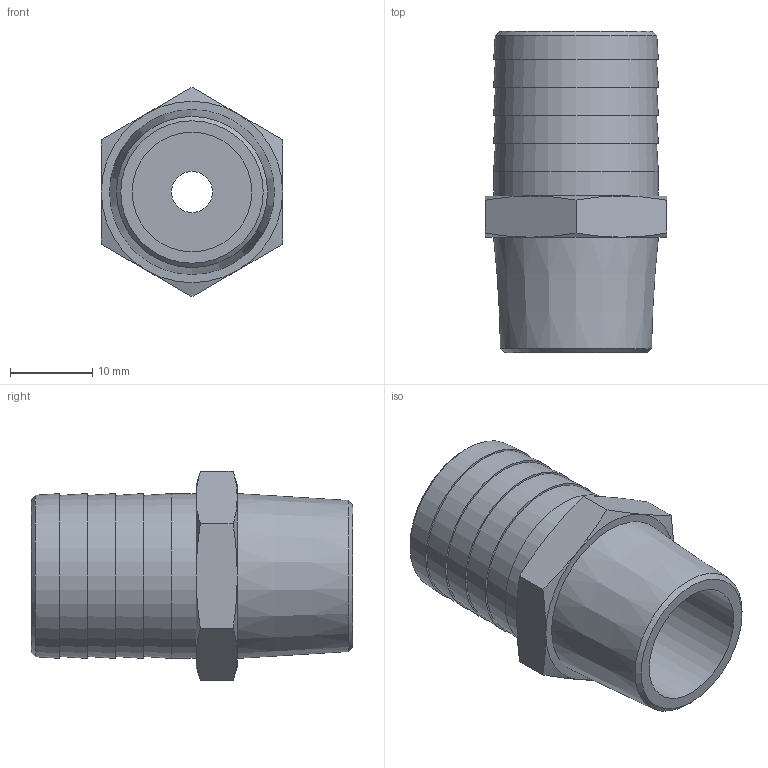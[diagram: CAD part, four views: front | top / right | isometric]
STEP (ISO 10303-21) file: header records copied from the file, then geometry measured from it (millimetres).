
FILE_DESCRIPTION(/* description */ (''),/* implementation_level */ '2;1');
FILE_NAME(/* name */ 'BXH09 20B4 00.stp',/* time_stamp */ '2026-06-22T11:21:29+02:00',/* author */ ('freju'),/* organization */ (''),/* preprocessor_version */ 'ST-DEVELOPER v20.1',/* originating_system */ 'Autodesk Inventor 2026',/* authorisation */ '');
FILE_SCHEMA (('AUTOMOTIVE_DESIGN { 1 0 10303 214 3 1 1 }'));
Length unit declared in the file: millimetre
Products named in the file (1): BXH09 20B4 00
Bounding box: 22 x 39 x 25.4 mm (x, y, z)
Volume: 9162.1 mm3; surface area: 4296.4 mm2
Topology: 1 solids, 1 shells, 38 faces, 74 edges, 45 vertices
Faces by surface type: cone 20, plane 15, cylinder 3
Full cylindrical faces by diameter (mm): 5 x1, 14.5 x1, 20 x1
Entity records: 990 total; most frequent: CARTESIAN_POINT 206, DIRECTION 161, ORIENTED_EDGE 148, EDGE_CURVE 74, AXIS2_PLACEMENT_3D 72, EDGE_LOOP 47, VERTEX_POINT 45, FACE_OUTER_BOUND 38
